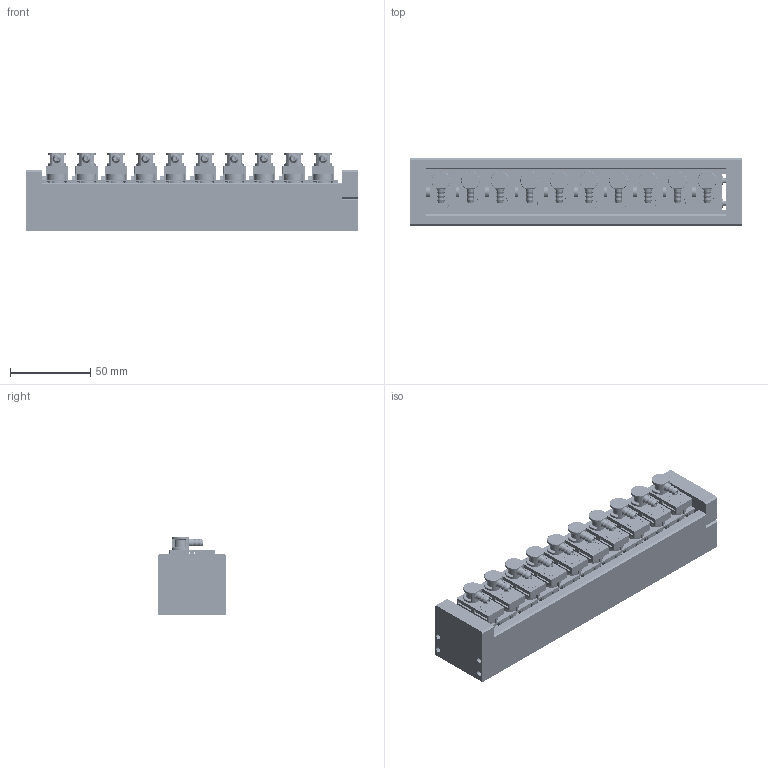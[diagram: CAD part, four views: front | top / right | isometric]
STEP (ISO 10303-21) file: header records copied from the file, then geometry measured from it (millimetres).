
FILE_DESCRIPTION(('CATIA V5 STEP Exchange'),'2;1');
FILE_NAME('C:\Users\hh\Desktop\AGZ102\装堵盖和直角接头端.stp','2023-09-23T05:43:55+00:00',('none'),('none'),'CATIA Version 5 Release 21 GA (IN-10)','CATIA V5 STEP AP214','none');
FILE_SCHEMA(('AUTOMOTIVE_DESIGN { 1 0 10303 214 1 1 1 1 }'));
Length unit declared in the file: millimetre
Products named in the file (21): Product1; 边条; 左挡板; 右挡边; 插挡; Product3; BPC0010255_A; BPC0010200_B; BPC0010201_A; BPC0010210_B; BPC0010204_A; BPC0010202_A; BPC0010206_A; BPC0010207_A; SHT0002205_A; BPC0010136_A; SHT0002209_A; BPC0010224_A; BSP0010037_A; BSP0010038_A; BFA0000755_A
Assembly tree (41 placements, depth 4):
  Product1
    边条  x2
    左挡板
    右挡边
    插挡
    Product3
      BPC0010255_A  x10
        BPC0010200_B
        BPC0010201_A
        BPC0010210_B
        BPC0010204_A
        BPC0010202_A
        BPC0010206_A
        BPC0010207_A
        SHT0002205_A
        BPC0010136_A
        SHT0002209_A
        BPC0010224_A
        BSP0010037_A
        BSP0010038_A
        BFA0000755_A
Bounding box: 206.5 x 42 x 48.5 mm (x, y, z)
Volume: 217954.3 mm3; surface area: 176698.4 mm2
Topology: 255 solids, 295 shells, 10816 faces, 28356 edges, 18268 vertices
Faces by surface type: plane 4752, cylinder 3724, torus 790, cone 780, bspline 450, sphere 170, extrusion 150
Entity records: 37889 total; most frequent: CARTESIAN_POINT 12915, ORIENTED_EDGE 5320, DIRECTION 3728, EDGE_CURVE 2660, VERTEX_POINT 1739, VECTOR 1546, LINE 1531, AXIS2_PLACEMENT_3D 1471
